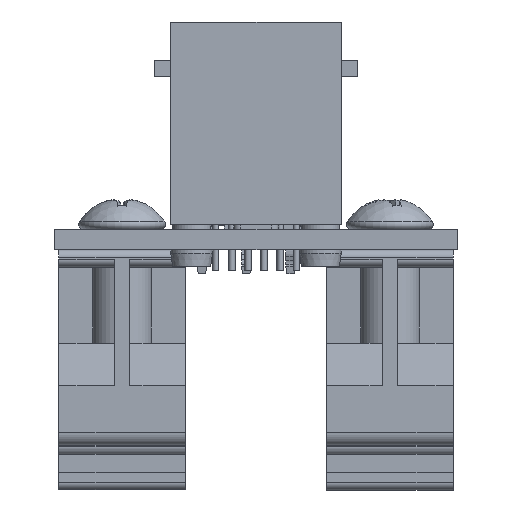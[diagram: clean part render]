
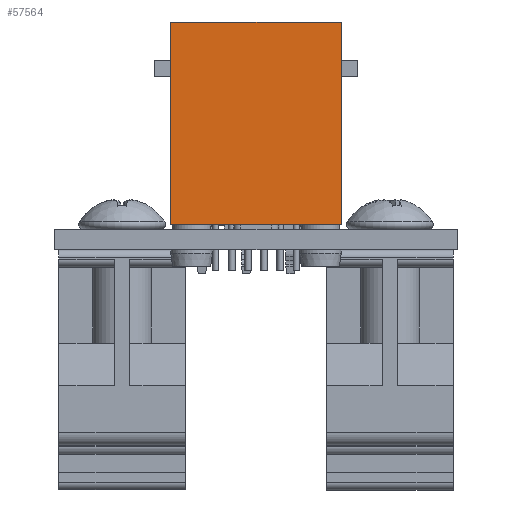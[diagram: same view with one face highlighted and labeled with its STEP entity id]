
A CAD part, left-side view. The second image highlights one B-rep face of the part: STEP entity #57564.
In plain terms, the highlighted planar face has unit normal (-1, 0, 0) as drawn and (0, -1, 0) by its records, which use the part's own axes.
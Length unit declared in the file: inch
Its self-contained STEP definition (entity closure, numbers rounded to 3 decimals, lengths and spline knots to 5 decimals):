
#2003 = FACE_OUTER_BOUND ( 'NONE', #74096, .T. ) ;
#4931 = LINE ( 'NONE', #16077, #33690 ) ;
#9123 = VERTEX_POINT ( 'NONE', #54879 ) ;
#9802 = CARTESIAN_POINT ( 'NONE',  ( 0., 0., -0.62992 ) ) ;
#16077 = CARTESIAN_POINT ( 'NONE',  ( 0., 0., 0. ) ) ;
#19243 = VERTEX_POINT ( 'NONE', #19450 ) ;
#19450 = CARTESIAN_POINT ( 'NONE',  ( -0.52992, 0., -0.62992 ) ) ;
#19664 = CARTESIAN_POINT ( 'NONE',  ( 0., 0., -0.62992 ) ) ;
#21381 = EDGE_CURVE ( 'NONE', #9123, #52240, #4931, .T. ) ;
#22514 = EDGE_CURVE ( 'NONE', #19243, #9123, #55044, .T. ) ;
#23569 = AXIS2_PLACEMENT_3D ( 'NONE', #19664, #42700, #31291 ) ;
#24612 = ORIENTED_EDGE ( 'NONE', *, *, #48830, .T. ) ;
#24951 = PLANE ( 'NONE',  #23569 ) ;
#29884 = CARTESIAN_POINT ( 'NONE',  ( 0., 0., 0. ) ) ;
#30525 = CARTESIAN_POINT ( 'NONE',  ( -0.52992, 0., -0.62992 ) ) ;
#31291 = DIRECTION ( 'NONE',  ( 0., 0., -1. ) ) ;
#31542 = CARTESIAN_POINT ( 'NONE',  ( 0., 0., -0.62992 ) ) ;
#31586 = ORIENTED_EDGE ( 'NONE', *, *, #58363, .T. ) ;
#33690 = VECTOR ( 'NONE', #45645, 39.37008 ) ;
#34680 = ORIENTED_EDGE ( 'NONE', *, *, #22514, .F. ) ;
#35330 = CARTESIAN_POINT ( 'NONE',  ( 0., 0., -0.62992 ) ) ;
#36951 = VECTOR ( 'NONE', #52810, 39.37008 ) ;
#42438 = LINE ( 'NONE', #9802, #46939 ) ;
#42700 = DIRECTION ( 'NONE',  ( 0., -1., 0. ) ) ;
#45645 = DIRECTION ( 'NONE',  ( 1., 0., 0. ) ) ;
#46895 = VERTEX_POINT ( 'NONE', #31542 ) ;
#46939 = VECTOR ( 'NONE', #50905, 39.37008 ) ;
#48626 = ORIENTED_EDGE ( 'NONE', *, *, #21381, .F. ) ;
#48830 = EDGE_CURVE ( 'NONE', #46895, #52240, #64257, .T. ) ;
#50905 = DIRECTION ( 'NONE',  ( 1., 0., 0. ) ) ;
#52240 = VERTEX_POINT ( 'NONE', #29884 ) ;
#52810 = DIRECTION ( 'NONE',  ( 0., 0., 1. ) ) ;
#54381 = VECTOR ( 'NONE', #70660, 39.37008 ) ;
#54879 = CARTESIAN_POINT ( 'NONE',  ( -0.52992, 0., 0. ) ) ;
#55044 = LINE ( 'NONE', #30525, #36951 ) ;
#57564 = ADVANCED_FACE ( 'NONE', ( #2003 ), #24951, .T. ) ;
#58363 = EDGE_CURVE ( 'NONE', #19243, #46895, #42438, .T. ) ;
#64257 = LINE ( 'NONE', #35330, #54381 ) ;
#70660 = DIRECTION ( 'NONE',  ( 0., 0., 1. ) ) ;
#74096 = EDGE_LOOP ( 'NONE', ( #48626, #34680, #31586, #24612 ) ) ;
